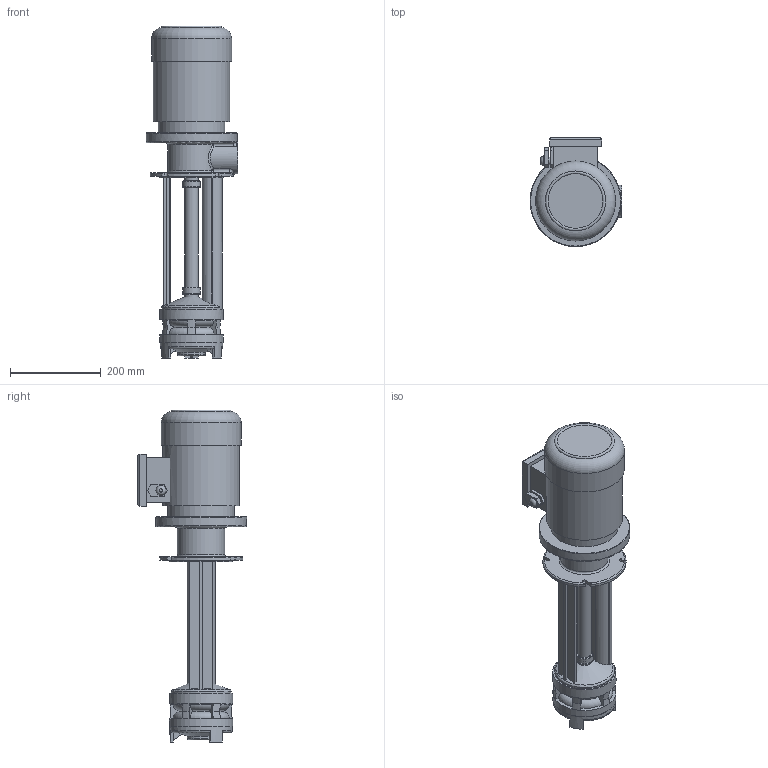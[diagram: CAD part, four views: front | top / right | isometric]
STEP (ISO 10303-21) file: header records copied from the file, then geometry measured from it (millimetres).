
FILE_DESCRIPTION(/* description */ ('Unknown'),/* implementation_level */ '2;1');
FILE_NAME(/* name */ 'gp2-400',/* time_stamp */ '2025-06-04T09:13:44+03:00',/* author */ ('Unknown'),/* organization */ ('Unknown'),/* preprocessor_version */ 'ST-DEVELOPER v16.7',/* originating_system */ 'DEX',/* authorisation */ $);
FILE_SCHEMA (('AUTOMOTIVE_DESIGN {1 0 10303 214 3 1 1}'));
Length unit declared in the file: millimetre
Products named in the file (1): gp2-400
Bounding box: 202 x 240 x 730.34 mm (x, y, z)
Volume: 9904430.2 mm3; surface area: 507554.4 mm2
Topology: 1 solids, 1 shells, 340 faces, 861 edges, 554 vertices
Faces by surface type: plane 122, bspline 84, cylinder 72, cone 33, torus 29
Full cylindrical faces by diameter (mm): 17 x1, 21.5 x1, 29 x3, 33 x2, 35 x2, 39 x2, 40.5 x2, 45 x1, 47 x1, 60 x1, 137 x1, 139 x2, 140 x1, 168.001 x1, 176 x1, 200 x1
Entity records: 12837 total; most frequent: CARTESIAN_POINT 5318, ORIENTED_EDGE 1608, DIRECTION 1359, EDGE_CURVE 804, VERTEX_POINT 546, AXIS2_PLACEMENT_3D 505, EDGE_LOOP 424, FACE_BOUND 424
